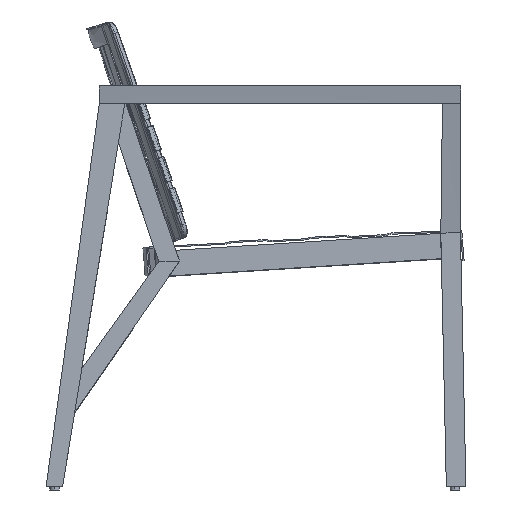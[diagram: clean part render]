
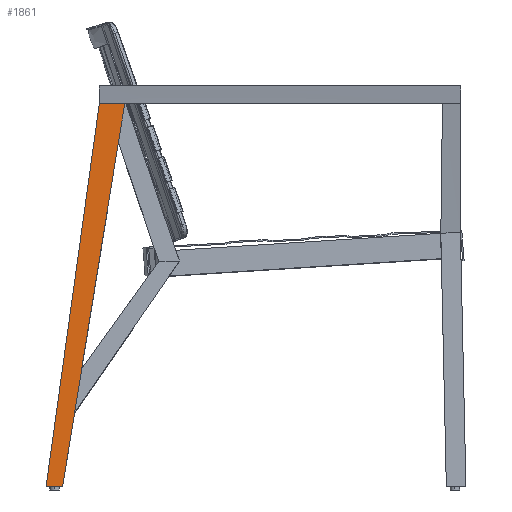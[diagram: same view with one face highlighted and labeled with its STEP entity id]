
A CAD part, left-side view. The second image highlights one B-rep face of the part: STEP entity #1861.
In plain terms, the highlighted planar face has unit normal (-1, 0.001, 0.025).
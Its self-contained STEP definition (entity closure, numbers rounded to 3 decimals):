
#211=PLANE('',#21039);
#1861=ADVANCED_FACE('',(#3252),#211,.T.);
#3252=FACE_OUTER_BOUND('',#4643,.T.);
#4643=EDGE_LOOP('',(#6924,#6925,#6926,#6927,#6928,#6929,#6930,#6931,#6932,
#6933));
#6924=ORIENTED_EDGE('',*,*,#12316,.T.);
#6925=ORIENTED_EDGE('',*,*,#12317,.T.);
#6926=ORIENTED_EDGE('',*,*,#12309,.T.);
#6927=ORIENTED_EDGE('',*,*,#12312,.T.);
#6928=ORIENTED_EDGE('',*,*,#12315,.T.);
#6929=ORIENTED_EDGE('',*,*,#12308,.T.);
#6930=ORIENTED_EDGE('',*,*,#12311,.T.);
#6931=ORIENTED_EDGE('',*,*,#12313,.T.);
#6932=ORIENTED_EDGE('',*,*,#12314,.T.);
#6933=ORIENTED_EDGE('',*,*,#12310,.T.);
#12308=EDGE_CURVE('',#18278,#18279,#15500,.T.);
#12309=EDGE_CURVE('',#18277,#18281,#15501,.T.);
#12310=EDGE_CURVE('',#18276,#18285,#15502,.T.);
#12311=EDGE_CURVE('',#18279,#18282,#15503,.T.);
#12312=EDGE_CURVE('',#18281,#18280,#15504,.T.);
#12313=EDGE_CURVE('',#18282,#18283,#15505,.T.);
#12314=EDGE_CURVE('',#18283,#18276,#15506,.T.);
#12315=EDGE_CURVE('',#18280,#18278,#15507,.T.);
#12316=EDGE_CURVE('',#18285,#18284,#15508,.T.);
#12317=EDGE_CURVE('',#18284,#18277,#15509,.T.);
#15500=B_SPLINE_CURVE_WITH_KNOTS('',1,(#30843,#30844),.UNSPECIFIED.,.F.,
 .F.,(2,2),(0.,36.313),.UNSPECIFIED.);
#15501=B_SPLINE_CURVE_WITH_KNOTS('',1,(#30845,#30846),.UNSPECIFIED.,.F.,
 .F.,(2,2),(0.,0.046),.UNSPECIFIED.);
#15502=B_SPLINE_CURVE_WITH_KNOTS('',1,(#30847,#30848),.UNSPECIFIED.,.F.,
 .F.,(2,2),(0.,61.202),.UNSPECIFIED.);
#15503=B_SPLINE_CURVE_WITH_KNOTS('',1,(#30849,#30850),.UNSPECIFIED.,.F.,
 .F.,(2,2),(0.,0.029),.UNSPECIFIED.);
#15504=B_SPLINE_CURVE_WITH_KNOTS('',3,(#30851,#30852,#30853,#30854),
 .UNSPECIFIED.,.F.,.F.,(4,4),(166.513,237.328),
 .UNSPECIFIED.);
#15505=B_SPLINE_CURVE_WITH_KNOTS('',3,(#30855,#30856,#30857,#30858),
 .UNSPECIFIED.,.F.,.F.,(4,4),(599.816,662.176),
 .UNSPECIFIED.);
#15506=B_SPLINE_CURVE_WITH_KNOTS('',1,(#30859,#30860),.UNSPECIFIED.,.F.,
 .F.,(2,2),(0.187,4.2),.UNSPECIFIED.);
#15507=B_SPLINE_CURVE_WITH_KNOTS('',1,(#30861,#30862),.UNSPECIFIED.,.F.,
 .F.,(2,2),(20.91,20.952),.UNSPECIFIED.);
#15508=B_SPLINE_CURVE_WITH_KNOTS('',3,(#30863,#30864,#30865,#30866),
 .UNSPECIFIED.,.F.,.F.,(4,4),(6.474,32.576),
 .UNSPECIFIED.);
#15509=B_SPLINE_CURVE_WITH_KNOTS('',1,(#30867,#30868),.UNSPECIFIED.,.F.,
 .F.,(2,2),(4.821,16.613),.UNSPECIFIED.);
#18276=VERTEX_POINT('',#30833);
#18277=VERTEX_POINT('',#30834);
#18278=VERTEX_POINT('',#30835);
#18279=VERTEX_POINT('',#30836);
#18280=VERTEX_POINT('',#30837);
#18281=VERTEX_POINT('',#30838);
#18282=VERTEX_POINT('',#30839);
#18283=VERTEX_POINT('',#30840);
#18284=VERTEX_POINT('',#30841);
#18285=VERTEX_POINT('',#30842);
#21039=AXIS2_PLACEMENT_3D('',#30832,#21249,$);
#21249=DIRECTION('',(-1.,0.001,0.026));
#30832=CARTESIAN_POINT('',(-306.62,338.498,-42.511));
#30833=CARTESIAN_POINT('',(-290.,247.683,611.));
#30834=CARTESIAN_POINT('',(-302.469,286.951,121.363));
#30835=CARTESIAN_POINT('',(-300.691,275.629,191.284));
#30836=CARTESIAN_POINT('',(-291.582,217.603,549.632));
#30837=CARTESIAN_POINT('',(-300.683,275.382,191.629));
#30838=CARTESIAN_POINT('',(-302.459,286.688,121.745));
#30839=CARTESIAN_POINT('',(-291.589,217.509,549.353));
#30840=CARTESIAN_POINT('',(-290.025,207.553,610.892));
#30841=CARTESIAN_POINT('',(-305.427,305.794,5.));
#30842=CARTESIAN_POINT('',(-305.412,331.895,5.));
#30843=CARTESIAN_POINT('',(-300.691,275.629,191.284));
#30844=CARTESIAN_POINT('',(-291.582,217.603,549.632));
#30845=CARTESIAN_POINT('',(-302.469,286.951,121.363));
#30846=CARTESIAN_POINT('',(-302.459,286.688,121.745));
#30847=CARTESIAN_POINT('',(-290.,247.683,611.));
#30848=CARTESIAN_POINT('',(-305.412,331.895,5.));
#30849=CARTESIAN_POINT('',(-291.582,217.603,549.632));
#30850=CARTESIAN_POINT('',(-291.589,217.509,549.353));
#30851=CARTESIAN_POINT('',(-302.459,286.688,121.745));
#30852=CARTESIAN_POINT('',(-301.867,282.919,145.04));
#30853=CARTESIAN_POINT('',(-301.275,279.151,168.335));
#30854=CARTESIAN_POINT('',(-300.683,275.382,191.629));
#30855=CARTESIAN_POINT('',(-291.589,217.509,549.353));
#30856=CARTESIAN_POINT('',(-291.068,214.19,569.866));
#30857=CARTESIAN_POINT('',(-290.546,210.871,590.379));
#30858=CARTESIAN_POINT('',(-290.025,207.553,610.892));
#30859=CARTESIAN_POINT('',(-290.025,207.553,610.892));
#30860=CARTESIAN_POINT('',(-290.,247.683,611.));
#30861=CARTESIAN_POINT('',(-300.683,275.382,191.629));
#30862=CARTESIAN_POINT('',(-300.691,275.629,191.284));
#30863=CARTESIAN_POINT('',(-305.412,331.895,5.));
#30864=CARTESIAN_POINT('',(-305.417,323.195,5.));
#30865=CARTESIAN_POINT('',(-305.422,314.494,5.));
#30866=CARTESIAN_POINT('',(-305.427,305.794,5.));
#30867=CARTESIAN_POINT('',(-305.427,305.794,5.));
#30868=CARTESIAN_POINT('',(-302.469,286.951,121.363));
